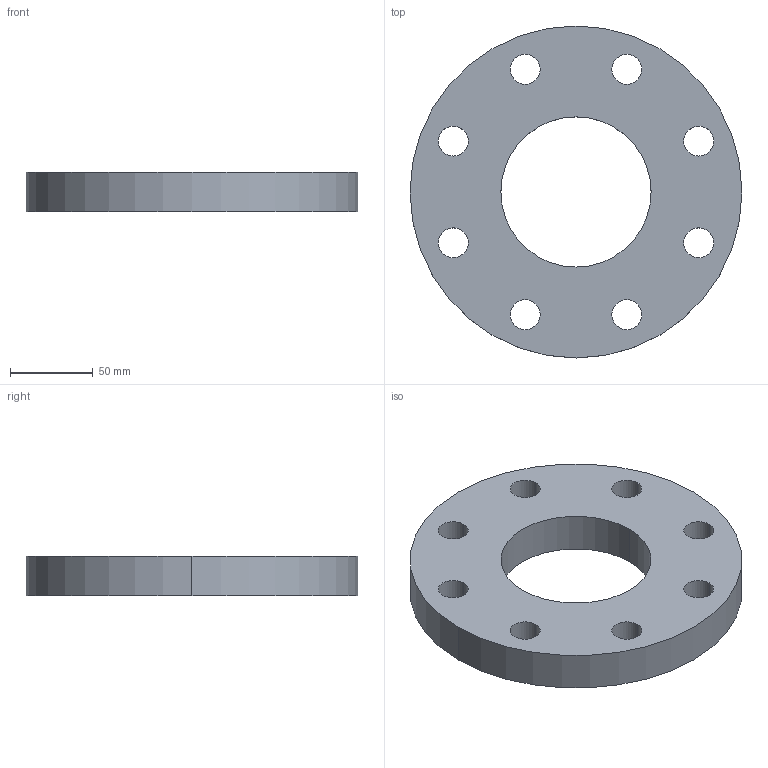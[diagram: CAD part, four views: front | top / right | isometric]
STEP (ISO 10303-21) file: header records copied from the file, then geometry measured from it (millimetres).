
FILE_DESCRIPTION (( 'STEP AP214' ), '1' );
FILE_NAME ('PN40 DN80 Type 01 - Type A Face.STEP', '2019-01-01T19:49:00', ( '' ), ( '' ), 'SwSTEP 2.0', 'SolidWorks 2019', '' );
FILE_SCHEMA (( 'AUTOMOTIVE_DESIGN' ));
Length unit declared in the file: millimetre
Products named in the file (1): PN40 DN80 Type 01 - Type A Face
Bounding box: 200 x 200 x 24 mm (x, y, z)
Volume: 550741.6 mm3; surface area: 78655.7 mm2
Topology: 1 solids, 1 shells, 22 faces, 60 edges, 40 vertices
Faces by surface type: cylinder 20, plane 2
Entity records: 794 total; most frequent: DIRECTION 146, CARTESIAN_POINT 123, ORIENTED_EDGE 120, AXIS2_PLACEMENT_3D 63, EDGE_CURVE 60, CIRCLE 40, EDGE_LOOP 40, VERTEX_POINT 40
